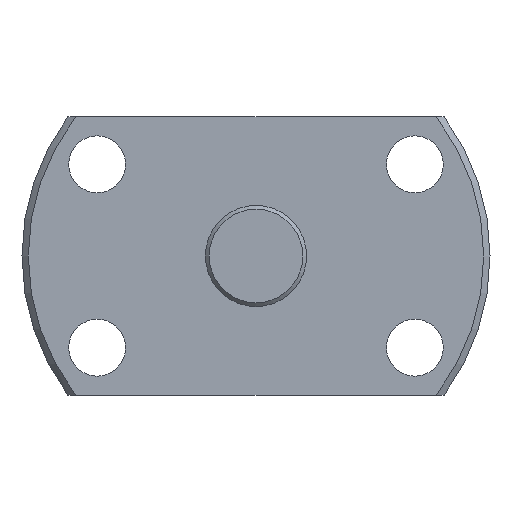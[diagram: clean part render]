
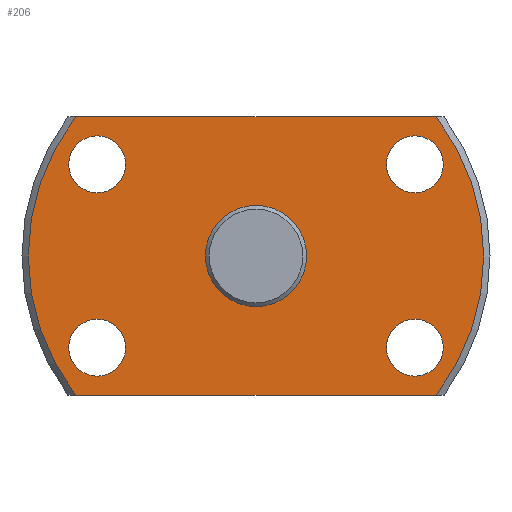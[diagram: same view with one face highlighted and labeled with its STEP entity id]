
A CAD part, left-side view. The second image highlights one B-rep face of the part: STEP entity #206.
In plain terms, the highlighted planar face has unit normal (-1, 0, 0).
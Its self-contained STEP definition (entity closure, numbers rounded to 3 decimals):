
#206 = ADVANCED_FACE( '', ( #315, #316, #317, #318, #319, #320 ), #321, .T. );
#315 = FACE_BOUND( '', #450, .T. );
#316 = FACE_OUTER_BOUND( '', #451, .T. );
#317 = FACE_BOUND( '', #452, .T. );
#318 = FACE_BOUND( '', #453, .T. );
#319 = FACE_BOUND( '', #454, .T. );
#320 = FACE_BOUND( '', #455, .T. );
#321 = PLANE( '', #456 );
#450 = EDGE_LOOP( '', ( #768 ) );
#451 = EDGE_LOOP( '', ( #769, #770, #771, #772 ) );
#452 = EDGE_LOOP( '', ( #773 ) );
#453 = EDGE_LOOP( '', ( #774 ) );
#454 = EDGE_LOOP( '', ( #775 ) );
#455 = EDGE_LOOP( '', ( #776 ) );
#456 = AXIS2_PLACEMENT_3D( '', #777, #778, #779 );
#768 = ORIENTED_EDGE( '', *, *, #998, .T. );
#769 = ORIENTED_EDGE( '', *, *, #976, .F. );
#770 = ORIENTED_EDGE( '', *, *, #995, .F. );
#771 = ORIENTED_EDGE( '', *, *, #999, .F. );
#772 = ORIENTED_EDGE( '', *, *, #1000, .F. );
#773 = ORIENTED_EDGE( '', *, *, #984, .T. );
#774 = ORIENTED_EDGE( '', *, *, #997, .T. );
#775 = ORIENTED_EDGE( '', *, *, #993, .T. );
#776 = ORIENTED_EDGE( '', *, *, #992, .T. );
#777 = CARTESIAN_POINT( '', ( 0., 18., 0. ) );
#778 = DIRECTION( '', ( -1., 0., 0. ) );
#779 = DIRECTION( '', ( 0., 0., 1. ) );
#976 = EDGE_CURVE( '', #1155, #1157, #1158, .T. );
#984 = EDGE_CURVE( '', #1171, #1171, #1172, .T. );
#992 = EDGE_CURVE( '', #1186, #1186, #1187, .T. );
#993 = EDGE_CURVE( '', #1188, #1188, #1189, .T. );
#995 = EDGE_CURVE( '', #1190, #1155, #1193, .T. );
#997 = EDGE_CURVE( '', #1195, #1195, #1196, .T. );
#998 = EDGE_CURVE( '', #1197, #1197, #1198, .T. );
#999 = EDGE_CURVE( '', #1199, #1190, #1200, .T. );
#1000 = EDGE_CURVE( '', #1157, #1199, #1201, .T. );
#1155 = VERTEX_POINT( '', #1461 );
#1157 = VERTEX_POINT( '', #1466 );
#1158 = LINE( '', #1467, #1468 );
#1171 = VERTEX_POINT( '', #1492 );
#1172 = CIRCLE( '', #1493, 2.25 );
#1186 = VERTEX_POINT( '', #1508 );
#1187 = CIRCLE( '', #1509, 2.25 );
#1188 = VERTEX_POINT( '', #1510 );
#1189 = CIRCLE( '', #1511, 2.25 );
#1190 = VERTEX_POINT( '', #1512 );
#1193 = CIRCLE( '', #1518, 18. );
#1195 = VERTEX_POINT( '', #1520 );
#1196 = CIRCLE( '', #1521, 2.25 );
#1197 = VERTEX_POINT( '', #1522 );
#1198 = CIRCLE( '', #1523, 4. );
#1199 = VERTEX_POINT( '', #1524 );
#1200 = LINE( '', #1525, #1526 );
#1201 = CIRCLE( '', #1527, 18. );
#1461 = CARTESIAN_POINT( '', ( 0., 14.248, 11. ) );
#1466 = CARTESIAN_POINT( '', ( 0., -14.248, 11. ) );
#1467 = CARTESIAN_POINT( '', ( 0., 18.5, 11. ) );
#1468 = VECTOR( '', #1699, 1000. );
#1492 = CARTESIAN_POINT( '', ( 0., 12.557, 5. ) );
#1493 = AXIS2_PLACEMENT_3D( '', #1708, #1709, #1710 );
#1508 = CARTESIAN_POINT( '', ( 0., 12.557, -9.5 ) );
#1509 = AXIS2_PLACEMENT_3D( '', #1730, #1731, #1732 );
#1510 = CARTESIAN_POINT( '', ( 0., -12.557, -9.5 ) );
#1511 = AXIS2_PLACEMENT_3D( '', #1733, #1734, #1735 );
#1512 = CARTESIAN_POINT( '', ( 0., 14.248, -11. ) );
#1518 = AXIS2_PLACEMENT_3D( '', #1736, #1737, #1738 );
#1520 = CARTESIAN_POINT( '', ( 0., -12.557, 5. ) );
#1521 = AXIS2_PLACEMENT_3D( '', #1742, #1743, #1744 );
#1522 = CARTESIAN_POINT( '', ( 0., 0., -4. ) );
#1523 = AXIS2_PLACEMENT_3D( '', #1745, #1746, #1747 );
#1524 = CARTESIAN_POINT( '', ( 0., -14.248, -11. ) );
#1525 = CARTESIAN_POINT( '', ( 0., -18.5, -11. ) );
#1526 = VECTOR( '', #1748, 1000. );
#1527 = AXIS2_PLACEMENT_3D( '', #1749, #1750, #1751 );
#1699 = DIRECTION( '', ( 0., -1., 0. ) );
#1708 = CARTESIAN_POINT( '', ( 0., 12.557, 7.25 ) );
#1709 = DIRECTION( '', ( 1., 0., 0. ) );
#1710 = DIRECTION( '', ( 0., 0., -1. ) );
#1730 = CARTESIAN_POINT( '', ( 0., 12.557, -7.25 ) );
#1731 = DIRECTION( '', ( 1., 0., 0. ) );
#1732 = DIRECTION( '', ( 0., 0., -1. ) );
#1733 = CARTESIAN_POINT( '', ( 0., -12.557, -7.25 ) );
#1734 = DIRECTION( '', ( 1., 0., 0. ) );
#1735 = DIRECTION( '', ( 0., 0., -1. ) );
#1736 = CARTESIAN_POINT( '', ( 0., 0., 0. ) );
#1737 = DIRECTION( '', ( 1., 0., 0. ) );
#1738 = DIRECTION( '', ( 0., 0., -1. ) );
#1742 = CARTESIAN_POINT( '', ( 0., -12.557, 7.25 ) );
#1743 = DIRECTION( '', ( 1., 0., 0. ) );
#1744 = DIRECTION( '', ( 0., 0., -1. ) );
#1745 = CARTESIAN_POINT( '', ( 0., 0., 0. ) );
#1746 = DIRECTION( '', ( 1., 0., 0. ) );
#1747 = DIRECTION( '', ( 0., 0., -1. ) );
#1748 = DIRECTION( '', ( 0., 1., 0. ) );
#1749 = CARTESIAN_POINT( '', ( 0., 0., 0. ) );
#1750 = DIRECTION( '', ( 1., 0., 0. ) );
#1751 = DIRECTION( '', ( 0., 0., -1. ) );
